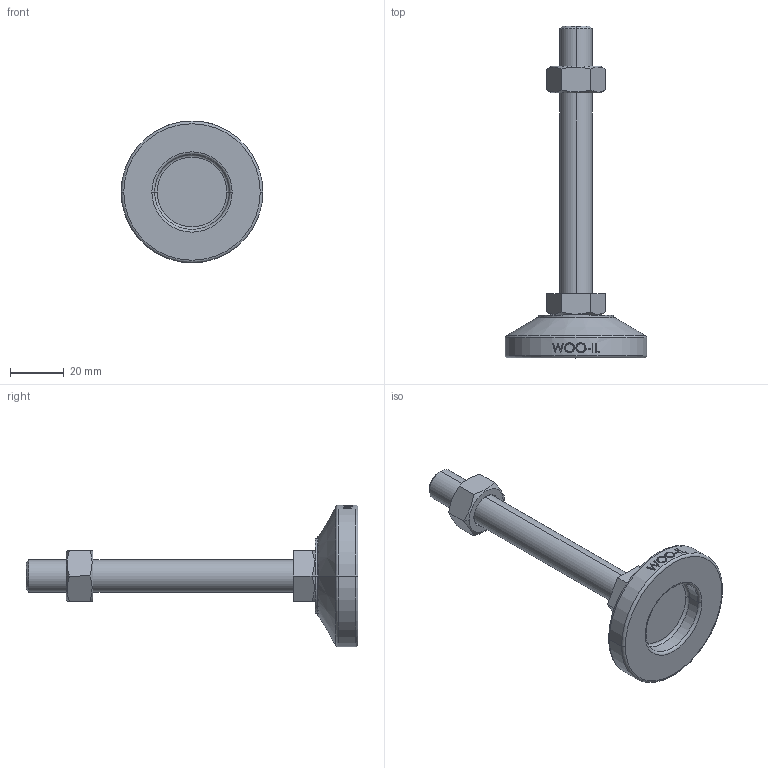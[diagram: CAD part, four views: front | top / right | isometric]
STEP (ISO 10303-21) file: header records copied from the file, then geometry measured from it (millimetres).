
FILE_DESCRIPTION (( 'STEP AP214' ), '1' );
FILE_NAME ('MF53-M12-100.step', '2021-02-03T08:16:13', ( '' ), ( '' ), 'SwSTEP 2.0', 'SolidWorks 2019', '' );
FILE_SCHEMA (( 'AUTOMOTIVE_DESIGN' ));
Length unit declared in the file: millimetre
Products named in the file (2): MF53-M12-100
Bounding box: 53 x 124 x 53 mm (x, y, z)
Volume: 39435.6 mm3; surface area: 12720.1 mm2
Topology: 3 solids, 3 shells, 106 faces, 243 edges, 154 vertices
Faces by surface type: plane 48, cylinder 18, bspline 16, cone 14, torus 10
Entity records: 4394 total; most frequent: CARTESIAN_POINT 2051, ORIENTED_EDGE 486, DIRECTION 439, EDGE_CURVE 243, AXIS2_PLACEMENT_3D 170, VERTEX_POINT 154, EDGE_LOOP 119, FACE_OUTER_BOUND 106
